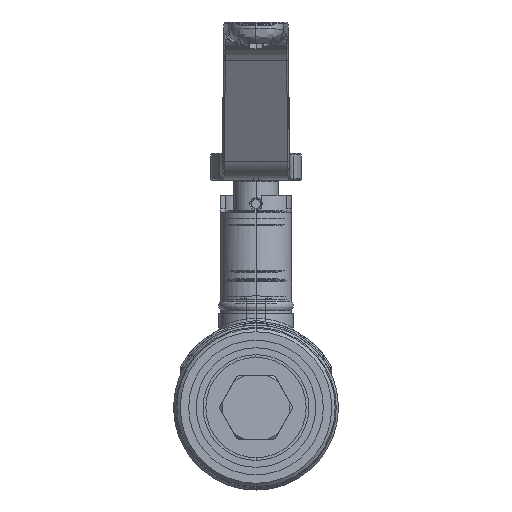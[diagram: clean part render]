
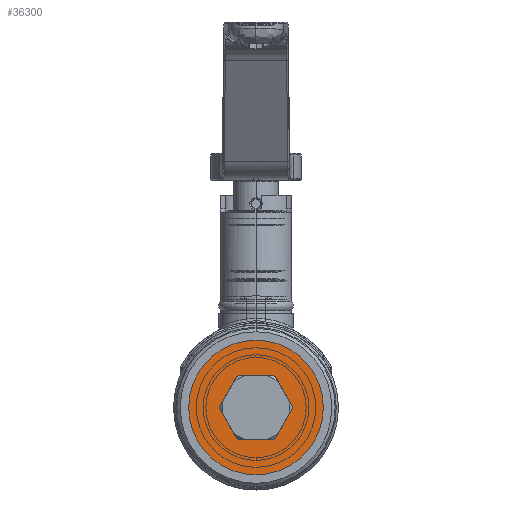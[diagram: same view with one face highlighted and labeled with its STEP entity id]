
A CAD part, left-side view. The second image highlights one B-rep face of the part: STEP entity #36300.
In plain terms, the highlighted planar face has unit normal (-1, 0, 0).
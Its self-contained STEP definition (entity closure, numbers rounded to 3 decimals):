
#12813=CARTESIAN_POINT('',(-58.,0.,0.));
#12814=DIRECTION('',(-1.,0.,0.));
#12815=DIRECTION('',(0.,0.,1.));
#12816=AXIS2_PLACEMENT_3D('',#12813,#12814,#12815);
#12826=CARTESIAN_POINT('',(-58.,0.,0.));
#12827=DIRECTION('',(1.,0.,0.));
#12828=DIRECTION('',(0.,0.,1.));
#12829=AXIS2_PLACEMENT_3D('',#12826,#12827,#12828);
#12831=CARTESIAN_POINT('',(-58.,0.,0.));
#12832=DIRECTION('',(1.,0.,0.));
#12833=DIRECTION('',(0.,-0.999,0.037));
#12834=AXIS2_PLACEMENT_3D('',#12831,#12832,#12833);
#12836=DIRECTION('',(0.,-0.5,-0.866));
#12837=VECTOR('',#12836,10.062);
#12838=CARTESIAN_POINT('',(-58.,-5.712,9.107));
#12839=LINE('',#12838,#12837);
#12840=CARTESIAN_POINT('',(-58.,0.,0.));
#12841=DIRECTION('',(1.,0.,0.));
#12842=DIRECTION('',(0.,-0.468,0.884));
#12843=AXIS2_PLACEMENT_3D('',#12840,#12841,#12842);
#12845=DIRECTION('',(0.,-1.,0.));
#12846=VECTOR('',#12845,10.062);
#12847=CARTESIAN_POINT('',(-58.,5.031,9.5));
#12848=LINE('',#12847,#12846);
#12849=CARTESIAN_POINT('',(-58.,0.,0.));
#12850=DIRECTION('',(-1.,0.,0.));
#12851=DIRECTION('',(0.,0.468,0.884));
#12852=AXIS2_PLACEMENT_3D('',#12849,#12850,#12851);
#12854=DIRECTION('',(0.,-0.5,0.866));
#12855=VECTOR('',#12854,10.062);
#12856=CARTESIAN_POINT('',(-58.,10.743,0.393));
#12857=LINE('',#12856,#12855);
#12858=CARTESIAN_POINT('',(-58.,0.,0.));
#12859=DIRECTION('',(-1.,0.,0.));
#12860=DIRECTION('',(0.,0.999,0.037));
#12861=AXIS2_PLACEMENT_3D('',#12858,#12859,#12860);
#12863=DIRECTION('',(0.,0.5,0.866));
#12864=VECTOR('',#12863,10.062);
#12865=CARTESIAN_POINT('',(-58.,5.712,-9.107));
#12866=LINE('',#12865,#12864);
#12867=CARTESIAN_POINT('',(-58.,0.,0.));
#12868=DIRECTION('',(-1.,0.,0.));
#12869=DIRECTION('',(0.,0.531,-0.847));
#12870=AXIS2_PLACEMENT_3D('',#12867,#12868,#12869);
#12872=DIRECTION('',(0.,1.,0.));
#12873=VECTOR('',#12872,10.062);
#12874=CARTESIAN_POINT('',(-58.,-5.031,-9.5));
#12875=LINE('',#12874,#12873);
#12876=CARTESIAN_POINT('',(-58.,0.,0.));
#12877=DIRECTION('',(1.,0.,0.));
#12878=DIRECTION('',(0.,-0.531,-0.847));
#12879=AXIS2_PLACEMENT_3D('',#12876,#12877,#12878);
#12881=DIRECTION('',(0.,0.5,-0.866));
#12882=VECTOR('',#12881,10.062);
#12883=CARTESIAN_POINT('',(-58.,-10.743,-0.393));
#12884=LINE('',#12883,#12882);
#14499=CARTESIAN_POINT('',(-58.,0.,20.));
#14501=VERTEX_POINT('',#14499);
#14503=CARTESIAN_POINT('',(-58.,0.,-20.));
#14505=VERTEX_POINT('',#14503);
#14519=CARTESIAN_POINT('',(-58.,5.031,9.5));
#14520=CARTESIAN_POINT('',(-58.,5.712,9.107));
#14521=VERTEX_POINT('',#14519);
#14522=VERTEX_POINT('',#14520);
#14523=CARTESIAN_POINT('',(-58.,10.743,0.393));
#14524=CARTESIAN_POINT('',(-58.,10.743,-0.393));
#14525=VERTEX_POINT('',#14523);
#14526=VERTEX_POINT('',#14524);
#14527=CARTESIAN_POINT('',(-58.,5.712,-9.107));
#14528=CARTESIAN_POINT('',(-58.,5.031,-9.5));
#14529=VERTEX_POINT('',#14527);
#14530=VERTEX_POINT('',#14528);
#14531=CARTESIAN_POINT('',(-58.,-5.031,9.5));
#14532=CARTESIAN_POINT('',(-58.,-5.712,9.107));
#14533=VERTEX_POINT('',#14531);
#14534=VERTEX_POINT('',#14532);
#14535=CARTESIAN_POINT('',(-58.,-10.743,0.393));
#14536=CARTESIAN_POINT('',(-58.,-10.743,-0.393));
#14537=VERTEX_POINT('',#14535);
#14538=VERTEX_POINT('',#14536);
#14539=CARTESIAN_POINT('',(-58.,-5.712,-9.107));
#14540=CARTESIAN_POINT('',(-58.,-5.031,-9.5));
#14541=VERTEX_POINT('',#14539);
#14542=VERTEX_POINT('',#14540);
#36265=CARTESIAN_POINT('',(-58.,0.,0.));
#36266=DIRECTION('',(-1.,0.,0.));
#36267=DIRECTION('',(0.,0.,-1.));
#36268=AXIS2_PLACEMENT_3D('',#36265,#36266,#36267);
#36269=PLANE('',#36268);
#36270=ORIENTED_EDGE('',*,*,#36260,.T.);
#36271=ORIENTED_EDGE('',*,*,#36244,.F.);
#36272=EDGE_LOOP('',(#36270,#36271));
#36273=FACE_OUTER_BOUND('',#36272,.F.);
#36275=ORIENTED_EDGE('',*,*,#36274,.F.);
#36277=ORIENTED_EDGE('',*,*,#36276,.F.);
#36279=ORIENTED_EDGE('',*,*,#36278,.F.);
#36281=ORIENTED_EDGE('',*,*,#36280,.F.);
#36283=ORIENTED_EDGE('',*,*,#36282,.T.);
#36285=ORIENTED_EDGE('',*,*,#36284,.F.);
#36287=ORIENTED_EDGE('',*,*,#36286,.T.);
#36289=ORIENTED_EDGE('',*,*,#36288,.F.);
#36291=ORIENTED_EDGE('',*,*,#36290,.T.);
#36293=ORIENTED_EDGE('',*,*,#36292,.F.);
#36295=ORIENTED_EDGE('',*,*,#36294,.F.);
#36297=ORIENTED_EDGE('',*,*,#36296,.F.);
#36298=EDGE_LOOP('',(#36275,#36277,#36279,#36281,#36283,#36285,#36287,#36289,
#36291,#36293,#36295,#36297));
#36299=FACE_BOUND('',#36298,.F.);
#36300=ADVANCED_FACE('',(#36273,#36299),#36269,.T.);
#12817=CIRCLE('',#12816,20.);
#12830=CIRCLE('',#12829,20.);
#12835=CIRCLE('',#12834,10.75);
#12844=CIRCLE('',#12843,10.75);
#12853=CIRCLE('',#12852,10.75);
#12862=CIRCLE('',#12861,10.75);
#12871=CIRCLE('',#12870,10.75);
#12880=CIRCLE('',#12879,10.75);
#36244=EDGE_CURVE('',#14501,#14505,#12817,.T.);
#36260=EDGE_CURVE('',#14501,#14505,#12830,.T.);
#36274=EDGE_CURVE('',#14537,#14538,#12835,.T.);
#36276=EDGE_CURVE('',#14534,#14537,#12839,.T.);
#36278=EDGE_CURVE('',#14533,#14534,#12844,.T.);
#36280=EDGE_CURVE('',#14521,#14533,#12848,.T.);
#36282=EDGE_CURVE('',#14521,#14522,#12853,.T.);
#36284=EDGE_CURVE('',#14525,#14522,#12857,.T.);
#36286=EDGE_CURVE('',#14525,#14526,#12862,.T.);
#36288=EDGE_CURVE('',#14529,#14526,#12866,.T.);
#36290=EDGE_CURVE('',#14529,#14530,#12871,.T.);
#36292=EDGE_CURVE('',#14542,#14530,#12875,.T.);
#36294=EDGE_CURVE('',#14541,#14542,#12880,.T.);
#36296=EDGE_CURVE('',#14538,#14541,#12884,.T.);
